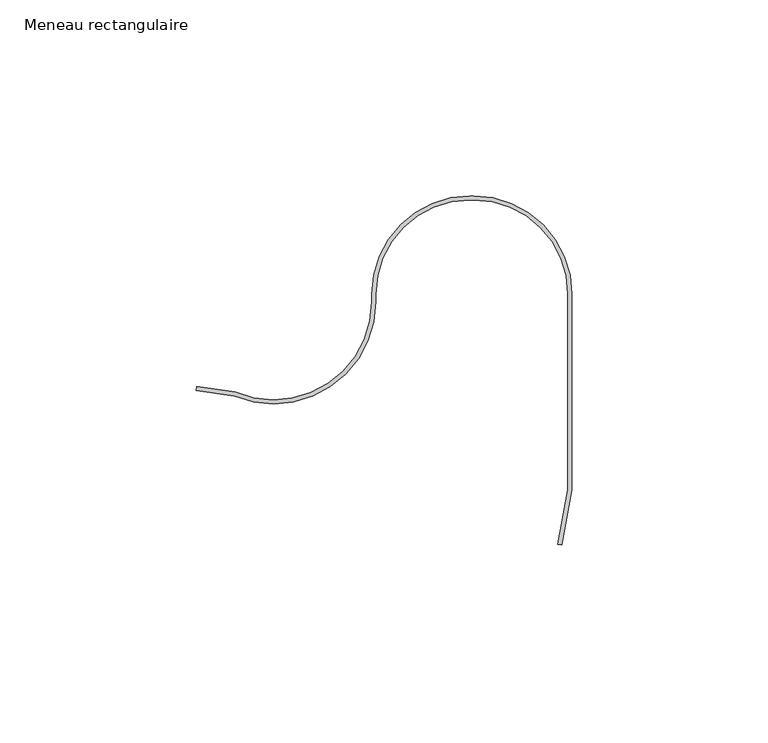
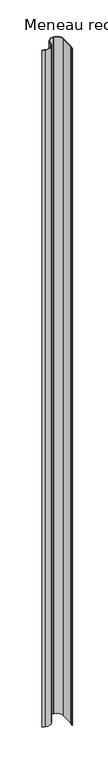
"""IFC4 building model written with IfcOpenShell, lengths in millimetres: member geometry, Meneau rectangulaire : Jonction contre mur Gauche V."""

from ifc_helpers import new_model, si_unit, point, frame, frame_2d, origin, place, context, project, spatial, polyline, circle_curve, trimmed, segment, composite_curve, outline, extrude, source, transform, mapped, element, save


def meneau_rectangulaire_9666dcc3(model_context):
    return source(origin(), model_context, "Body", "SweptSolid", [
        extrude(outline(composite_curve([segment(polyline([(-1.0, -25.3470857), (-1.0, 24.6529143)]), True, "CONTINUOUS"), segment(trimmed(circle_curve(frame_2d((-25.0, 24.6529143)), 24.0), [point((-1.0, 24.6529143))], [point((-25.0, 48.6529143))], True, "CARTESIAN"), True, "CONTINUOUS"), segment(polyline([(-25.0, 48.6529143), (-26.0, 48.6529143)]), True, "CONTINUOUS"), segment(trimmed(circle_curve(frame_2d((-26.0, 24.6529143)), 24.0), [point((-26.0, 48.6529143))], [point((-50.0, 24.6529143))], True, "CARTESIAN"), True, "CONTINUOUS"), segment(polyline([(-50.0, 24.6529143), (-50.0, 22.6317013)]), True, "CONTINUOUS"), segment(trimmed(circle_curve(frame_2d((-76.0, 22.6317013)), 26.0), [point((-50.0, 22.6317013))], [point((-86.0341553, -1.3540388))], False, "CARTESIAN"), True, "CONTINUOUS"), segment(polyline([(-86.0341553, -1.3540388), (-95.8078149, 0.0195595), (-95.6686418, 1.0098276), (-85.7659612, -0.3819034)]), True, "CONTINUOUS"), segment(trimmed(circle_curve(frame_2d((-76.0, 22.6317013)), 25.0), [point((-85.7659612, -0.3819034))], [point((-51.0, 22.6317013))], True, "CARTESIAN"), True, "CONTINUOUS"), segment(polyline([(-51.0, 22.6317013), (-51.0, 24.6529143)]), True, "CONTINUOUS"), segment(trimmed(circle_curve(frame_2d((-26.0, 24.6529143)), 25.0), [point((-51.0, 24.6529143))], [point((-26.0, 49.6529143))], False, "CARTESIAN"), True, "CONTINUOUS"), segment(polyline([(-26.0, 49.6529143), (-25.0, 49.6529143)]), True, "CONTINUOUS"), segment(trimmed(circle_curve(frame_2d((-25.0, 24.6529143)), 25.0), [point((-25.0, 49.6529143))], [point((0.0, 24.6529143))], False, "CARTESIAN"), True, "CONTINUOUS"), segment(polyline([(0.0, 24.6529143), (0.0, -25.3470857), (-2.6384309, -39.3947769), (-3.6043568, -39.2133572), (-1.0, -25.3470857)]), True, "CONTINUOUS")], self_intersect=False)), frame((0.0, 0.0, -2746.3373467), z_axis=(0.0, 0.0, 1.0), x_axis=(1.0, 0.0, 0.0)), (0.0, 0.0, 1.0), 2746.3373467),
    ])


if __name__ == "__main__":
    model = new_model("IFC4")
    model_context = context("Model", 3, world=origin())
    ifc_project = project(units=[si_unit("LENGTHUNIT", "METRE", prefix="MILLI")], contexts=[model_context])
    site = spatial("IfcSite", under=ifc_project)
    building = spatial("IfcBuilding", under=site)
    placement = place(None, origin())
    meneau_rectangulaire_shape = meneau_rectangulaire_9666dcc3(model_context)
    element("IfcMember", 1, ObjectType="Meneau rectangulaire : Jonction contre mur Gauche V", at=placement, inside=building, context=model_context, shape_type="MappedRepresentation", body=[
        mapped(meneau_rectangulaire_shape, transform((0.0, 0.0, 0.0), x_axis=(1.0, 0.0, 0.0), y_axis=(0.0, 1.0, 0.0), z_axis=(0.0, 0.0, 1.0))),
    ])
    save(model, "model.ifc")
